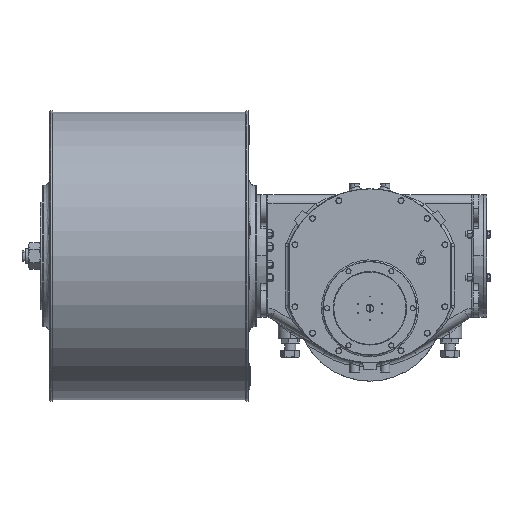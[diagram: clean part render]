
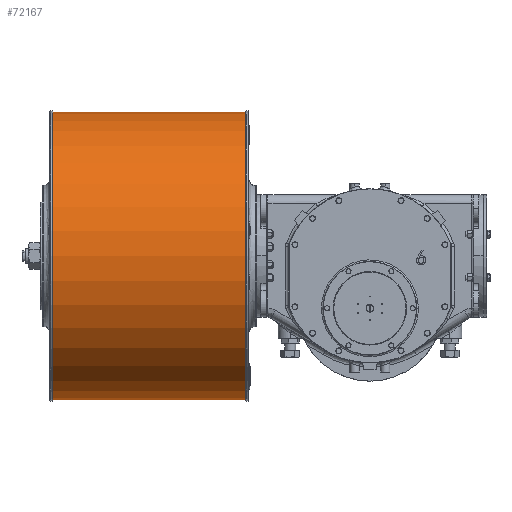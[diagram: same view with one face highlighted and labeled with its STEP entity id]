
A CAD part, top view. The second image highlights one B-rep face of the part: STEP entity #72167.
In plain terms, the highlighted cylindrical face has radius 470 mm (diameter 940 mm), a partial arc.
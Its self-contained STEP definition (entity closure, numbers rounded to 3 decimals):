
#1406 = VERTEX_POINT ( 'NONE', #42971 ) ;
#5100 = EDGE_CURVE ( 'NONE', #1406, #30260, #44247, .T. ) ;
#10874 = ORIENTED_EDGE ( 'NONE', *, *, #72098, .T. ) ;
#12516 = AXIS2_PLACEMENT_3D ( 'NONE', #57879, #39587, #35042 ) ;
#14848 = AXIS2_PLACEMENT_3D ( 'NONE', #31287, #64813, #65508 ) ;
#15774 = CARTESIAN_POINT ( 'NONE',  ( -405., 641., 138. ) ) ;
#15990 = CIRCLE ( 'NONE', #14848, 470. ) ;
#16501 = LINE ( 'NONE', #15774, #24325 ) ;
#16996 = CARTESIAN_POINT ( 'NONE',  ( -1035., -299., 138. ) ) ;
#17023 = ORIENTED_EDGE ( 'NONE', *, *, #19193, .F. ) ;
#18620 = EDGE_CURVE ( 'NONE', #69789, #18806, #15990, .T. ) ;
#18806 = VERTEX_POINT ( 'NONE', #26824 ) ;
#19193 = EDGE_CURVE ( 'NONE', #69789, #30260, #43740, .T. ) ;
#20792 = AXIS2_PLACEMENT_3D ( 'NONE', #44845, #39335, #55140 ) ;
#21288 = DIRECTION ( 'NONE',  ( -1., 0., 0. ) ) ;
#22750 = FACE_OUTER_BOUND ( 'NONE', #31521, .T. ) ;
#24325 = VECTOR ( 'NONE', #21288, 1000. ) ;
#26824 = CARTESIAN_POINT ( 'NONE',  ( -405., 641., 138. ) ) ;
#30260 = VERTEX_POINT ( 'NONE', #16996 ) ;
#31287 = CARTESIAN_POINT ( 'NONE',  ( -405., 171., 138. ) ) ;
#31521 = EDGE_LOOP ( 'NONE', ( #32645, #10874, #70002, #17023 ) ) ;
#32645 = ORIENTED_EDGE ( 'NONE', *, *, #18620, .T. ) ;
#35042 = DIRECTION ( 'NONE',  ( 0., -1., 0. ) ) ;
#39166 = CARTESIAN_POINT ( 'NONE',  ( -405., -299., 138. ) ) ;
#39335 = DIRECTION ( 'NONE',  ( -1., 0., 0. ) ) ;
#39587 = DIRECTION ( 'NONE',  ( 1., 0., 0. ) ) ;
#42971 = CARTESIAN_POINT ( 'NONE',  ( -1035., 641., 138. ) ) ;
#43740 = LINE ( 'NONE', #72080, #65457 ) ;
#44247 = CIRCLE ( 'NONE', #12516, 470. ) ;
#44845 = CARTESIAN_POINT ( 'NONE',  ( -405., 171., 138. ) ) ;
#55140 = DIRECTION ( 'NONE',  ( 0., -1., 0. ) ) ;
#57879 = CARTESIAN_POINT ( 'NONE',  ( -1035., 171., 138. ) ) ;
#64813 = DIRECTION ( 'NONE',  ( -1., 0., 0. ) ) ;
#65457 = VECTOR ( 'NONE', #66897, 1000. ) ;
#65508 = DIRECTION ( 'NONE',  ( 0., -1., 0. ) ) ;
#66897 = DIRECTION ( 'NONE',  ( -1., 0., 0. ) ) ;
#66923 = CYLINDRICAL_SURFACE ( 'NONE', #20792, 470. ) ;
#69789 = VERTEX_POINT ( 'NONE', #39166 ) ;
#70002 = ORIENTED_EDGE ( 'NONE', *, *, #5100, .T. ) ;
#72080 = CARTESIAN_POINT ( 'NONE',  ( -405., -299., 138. ) ) ;
#72098 = EDGE_CURVE ( 'NONE', #18806, #1406, #16501, .T. ) ;
#72167 = ADVANCED_FACE ( 'NONE', ( #22750 ), #66923, .T. ) ;
